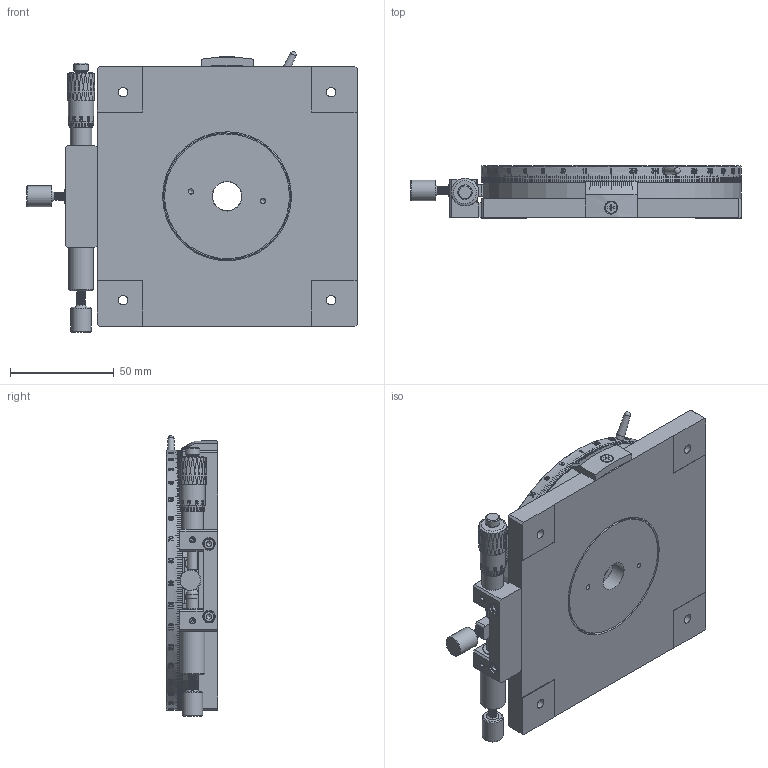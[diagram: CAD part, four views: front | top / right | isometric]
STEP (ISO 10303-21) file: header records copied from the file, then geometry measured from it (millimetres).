
FILE_DESCRIPTION (( 'STEP AP203' ), '1' );
FILE_NAME ('BPR125.STEP', '2024-07-09T05:44:27', ( 'Windows User' ), ( 'P R C' ), 'SwSTEP 2.0', 'SolidWorks 2024', '' );
FILE_SCHEMA (( 'CONFIG_CONTROL_DESIGN' ));
Products named in the file (1): BPR125
Bounding box: 158.7 x 25 x 134.82 mm (x, y, z)
Volume: 337427.9 mm3; surface area: 119743.3 mm2
Topology: 23 solids, 23 shells, 2817 faces, 8857 edges, 6371 vertices
Faces by surface type: plane 1854, bspline 402, cylinder 377, cone 162, torus 20, sphere 2
Full cylindrical faces by diameter (mm): 2.05 x2, 2.5 x11, 2.6 x1, 2.8 x1, 2.85 x1, 2.9 x2, 3 x5, 3.2 x1, 3.3 x14, 3.4 x3, 4 x2, 4.5 x4, 5 x5, 5.3 x1, 5.5 x3, 6 x4, 7 x1, 8 x4, 8.5 x1, 8.8 x1, 9.5 x5, 10 x2, 10.5 x1, 12 x1, 12.2 x1, 14 x1, 14.2 x1, 15 x7, 16 x2, 43 x1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
Entity records: 164447 total; most frequent: CARTESIAN_POINT 91767, ORIENTED_EDGE 17196, DIRECTION 11648, EDGE_CURVE 8598, VERTEX_POINT 6314, VECTOR 4322, LINE 4322, AXIS2_PLACEMENT_3D 3663
